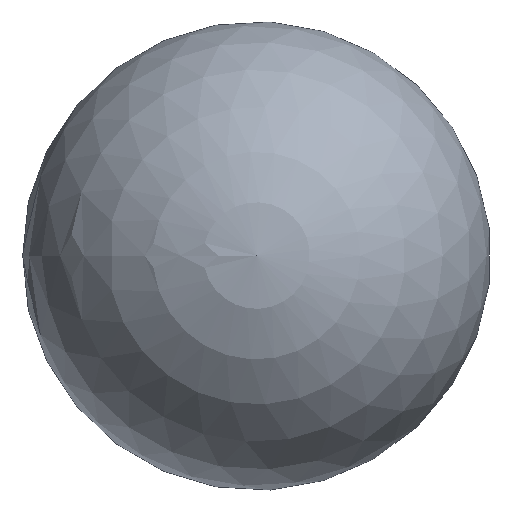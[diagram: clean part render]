
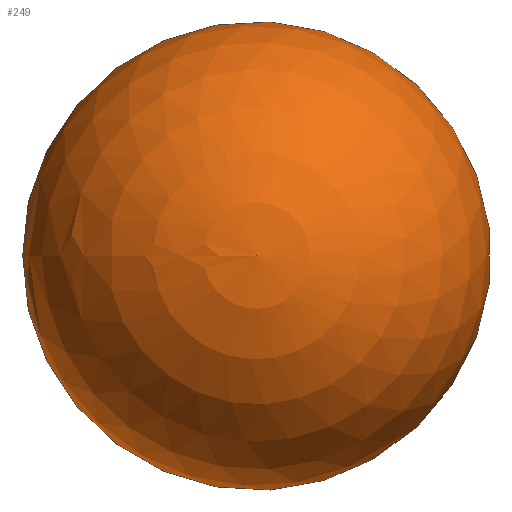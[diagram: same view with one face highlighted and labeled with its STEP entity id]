
A CAD part, top view. The second image highlights one B-rep face of the part: STEP entity #249.
In plain terms, the highlighted spherical face has radius 250 mm.
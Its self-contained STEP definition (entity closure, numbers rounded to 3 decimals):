
#23=SPHERICAL_SURFACE('',#315,250.);
#63=FACE_OUTER_BOUND('',#83,.T.);
#83=EDGE_LOOP('',(#228,#229,#230));
#119=CIRCLE('',#314,40.018);
#120=CIRCLE('',#316,250.);
#139=VERTEX_POINT('',#481);
#140=VERTEX_POINT('',#484);
#169=EDGE_CURVE('',#139,#139,#119,.T.);
#170=EDGE_CURVE('',#140,#139,#120,.T.);
#228=ORIENTED_EDGE('',*,*,#169,.T.);
#229=ORIENTED_EDGE('',*,*,#170,.F.);
#230=ORIENTED_EDGE('',*,*,#170,.T.);
#249=ADVANCED_FACE('',(#63),#23,.T.);
#314=AXIS2_PLACEMENT_3D('',#482,#405,#406);
#315=AXIS2_PLACEMENT_3D('',#483,#407,#408);
#316=AXIS2_PLACEMENT_3D('',#485,#409,#410);
#405=DIRECTION('center_axis',(0.,0.,1.));
#406=DIRECTION('ref_axis',(1.,0.,0.));
#407=DIRECTION('center_axis',(0.,0.,1.));
#408=DIRECTION('ref_axis',(1.,0.,0.));
#409=DIRECTION('center_axis',(0.,-1.,0.));
#410=DIRECTION('ref_axis',(-1.,0.,0.));
#481=CARTESIAN_POINT('',(-40.018,0.,-5.064));
#482=CARTESIAN_POINT('Origin',(0.,0.,-5.064));
#483=CARTESIAN_POINT('Origin',(0.,0.,241.713));
#484=CARTESIAN_POINT('',(0.,0.,491.713));
#485=CARTESIAN_POINT('Origin',(0.,0.,241.713));
